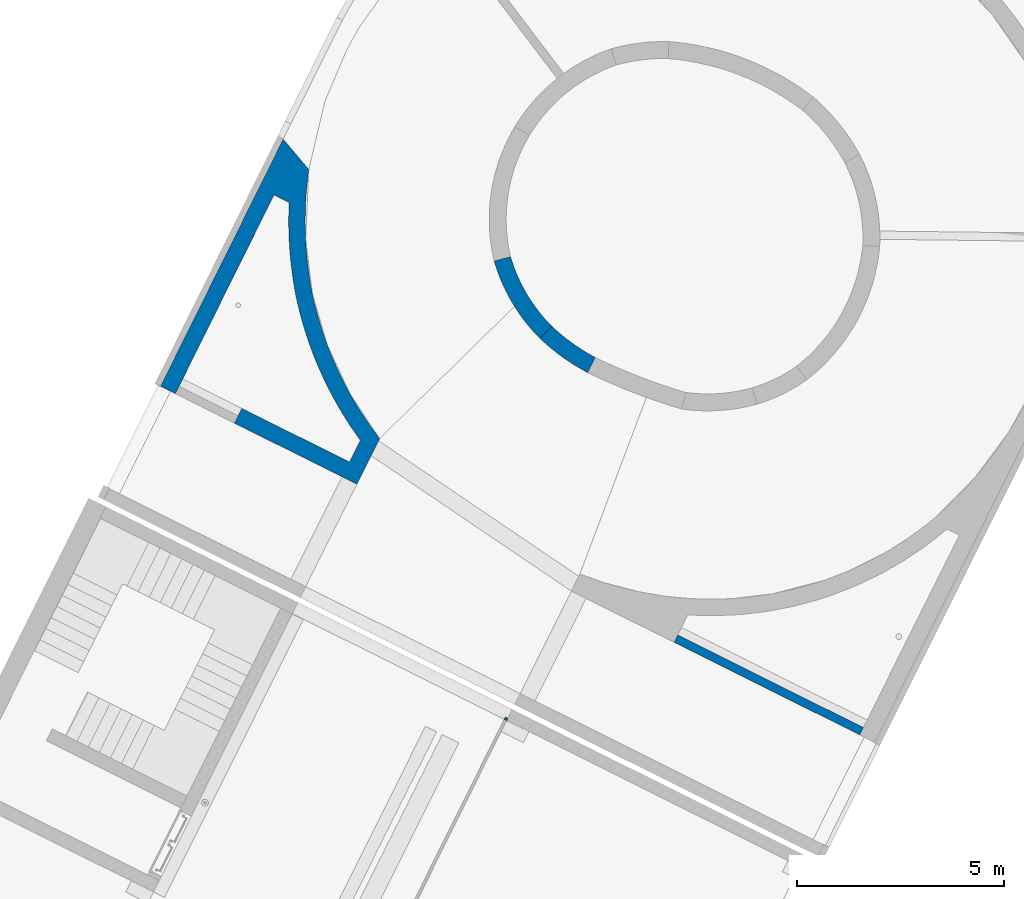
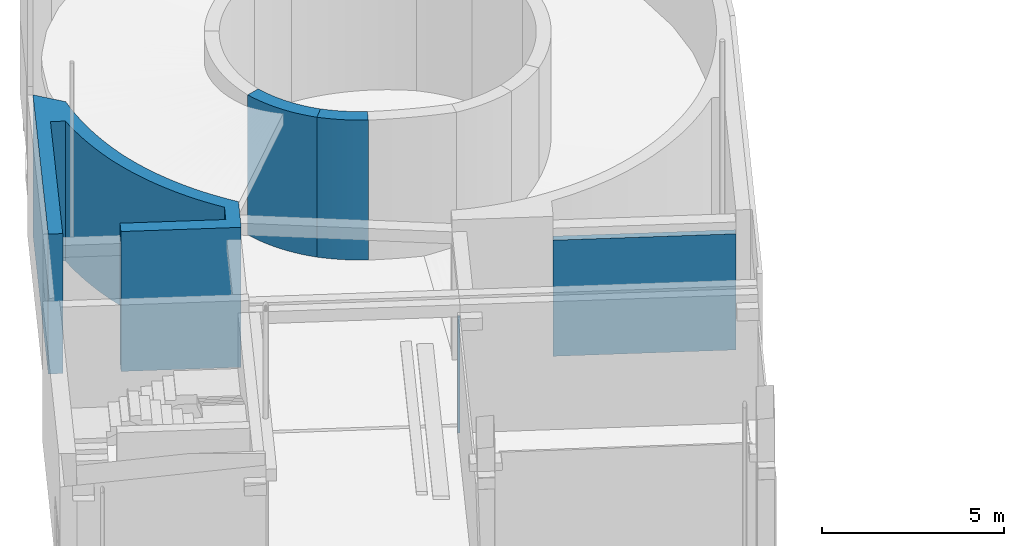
# One storey, part 18 of 91: 5 walls.
"""IFC2X3 building model written with IfcOpenShell, lengths in metres."""

from ifc_helpers import new_model, entity, si_unit, converted_unit, derived_unit, direction, frame, frame_2d, origin, place, context, subcontext, project, spatial, polyline, circle_curve, parameter, trimmed, segment, composite_curve, rectangle, outline, extrude, clip, bounded_halfspace, material, layer, layer_set, layer_usage, type_object, element, save


model = new_model("IFC2X3")

# Units and contexts
model_context = context("Model", 3, precision=1e-05, world=origin(), true_north=direction((0.894925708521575, 0.446215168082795)))
context_of_model = context(None, 3, precision=1e-05, world=origin(), true_north=direction((0.894925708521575, 0.446215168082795)))
body_context = subcontext(model_context, "Body", "Model", "MODEL_VIEW")
ifc_project = project(units=[si_unit("LENGTHUNIT", "METRE"), si_unit("AREAUNIT", "SQUARE_METRE"), si_unit("VOLUMEUNIT", "CUBIC_METRE"), converted_unit("PLANEANGLEUNIT", "DEGREE", entity("IfcRatioMeasure", 0.0174532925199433), si_unit("PLANEANGLEUNIT", "RADIAN"), dimensions=[0, 0, 0, 0, 0, 0, 0]), si_unit("MASSUNIT", "GRAM", prefix="KILO"), si_unit("TIMEUNIT", "SECOND"), si_unit("FREQUENCYUNIT", "HERTZ"), si_unit("THERMODYNAMICTEMPERATUREUNIT", "DEGREE_CELSIUS"), derived_unit("THERMALTRANSMITTANCEUNIT", [(si_unit("MASSUNIT", "GRAM", prefix="KILO"), 1), (si_unit("THERMODYNAMICTEMPERATUREUNIT", "KELVIN"), -1), (si_unit("TIMEUNIT", "SECOND"), -3)]), derived_unit("VOLUMETRICFLOWRATEUNIT", [(si_unit("LENGTHUNIT", "METRE"), 3), (si_unit("TIMEUNIT", "SECOND"), -1)]), si_unit("ELECTRICCURRENTUNIT", "AMPERE"), si_unit("ELECTRICVOLTAGEUNIT", "VOLT"), si_unit("POWERUNIT", "WATT"), si_unit("FORCEUNIT", "NEWTON", prefix="KILO"), si_unit("ILLUMINANCEUNIT", "LUX"), si_unit("LUMINOUSFLUXUNIT", "LUMEN"), si_unit("LUMINOUSINTENSITYUNIT", "CANDELA"), si_unit("PRESSUREUNIT", "PASCAL")], contexts=[model_context, context_of_model])

# Site, building, storey
site_placement = place(None, frame((218.228324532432, 584.720189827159, 0.0), z_axis=(0.0, 0.0, 1.0), x_axis=(0.446215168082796, 0.894925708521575, 0.0)))
site = spatial("IfcSite", under=ifc_project, at=site_placement, Name="Default", CompositionType="ELEMENT")
building_placement = place(site_placement, origin())
building = spatial("IfcBuilding", under=site, at=building_placement, CompositionType="ELEMENT")
storey_placement = place(building_placement, origin())
storey = spatial("IfcBuildingStorey", under=building, at=storey_placement, Name="0 - Piano Terra", CompositionType="ELEMENT", Elevation=0.0)

# Walls
ifc_material_1 = material(Name="Intonaco - Bianco")
ifc_layer_1 = layer(ifc_material_1, 0.01)
ifc_material_2 = material(Name="Default - Calcestruzzo")
ifc_layer_2 = layer(ifc_material_2, 0.4)
ifc_layer_set_1 = layer_set([ifc_layer_1, ifc_layer_2], Name="Muro di base:Setto CA intonacato int - 41 cm")
ifc_layer_usage_1 = layer_usage(ifc_layer_set_1, "AXIS2", "POSITIVE", -0.205)
wall_type_1 = type_object("IfcWallType", Name="Muro di base:Setto CA intonacato int - 41 cm", PredefinedType="STANDARD", material=ifc_layer_set_1)
wall_1_placement = place(storey_placement, frame((67.3641992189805, -1.66068029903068, 0.0), z_axis=(0.0, 0.0, 1.0), x_axis=(-0.727124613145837, 0.686505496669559, 0.0)))
element("IfcWallStandardCase", 1, at=wall_1_placement, inside=storey, type_object=wall_type_1, material=ifc_layer_usage_1, Name="Muro di base:Setto CA intonacato int - 41 cm", ObjectType="Muro di base:Setto CA intonacato int - 41 cm", context=body_context, shape_type="SweptSolid", body=[
    extrude(outline(composite_curve([segment(trimmed(circle_curve(frame_2d((-3.78593377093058, -1.75768012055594), x_axis=(1.0, 0.0)), 4.37905485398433), [parameter(356.075090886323)], [parameter(24.9038369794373)], True, "PARAMETER"), True, "CONTINUOUS"), segment(polyline([(0.18593824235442, 0.086324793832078), (-0.183564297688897, -0.0914476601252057)]), True, "CONTINUOUS"), segment(trimmed(circle_curve(frame_2d((-3.78593377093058, -1.75768012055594), x_axis=(1.0, 0.0)), 3.96905485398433), [parameter(356.222668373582)], [parameter(24.8223308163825)], True, "PARAMETER"), False, "CONTINUOUS"), segment(polyline([(0.174498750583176, -2.01915799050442), (0.582850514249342, -2.05742214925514)]), True, "CONTINUOUS")], self_intersect=False)), origin(), (0.0, 0.0, 1.0), 4.69),
])
ifc_layer_usage_2 = layer_usage(ifc_layer_set_1, "AXIS2", "POSITIVE", -0.205)
wall_2_placement = place(storey_placement, frame((67.1496078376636, -3.00064880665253, 0.0), z_axis=(0.0, 0.0, 1.0), x_axis=(-0.956988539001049, 0.29012572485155, 0.0)))
element("IfcWallStandardCase", 2, at=wall_2_placement, inside=storey, type_object=wall_type_1, material=ifc_layer_usage_2, Name="Muro di base:Setto CA intonacato int - 41 cm", ObjectType="Muro di base:Setto CA intonacato int - 41 cm", context=body_context, shape_type="SweptSolid", body=[
    extrude(outline(composite_curve([segment(trimmed(circle_curve(frame_2d((-4.88110562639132, -1.35026256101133), x_axis=(1.0, 0.0)), 5.26942505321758), [parameter(359.999999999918)], [parameter(15.4630661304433)], True, "PARAMETER"), True, "CONTINUOUS"), segment(polyline([(0.197579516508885, 0.0546565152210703), (-0.195611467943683, -0.0617920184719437)]), True, "CONTINUOUS"), segment(trimmed(circle_curve(frame_2d((-4.88110562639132, -1.35026256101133), x_axis=(1.0, 0.0)), 4.85942505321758), [parameter(0.0671506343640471)], [parameter(15.3757925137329)], True, "PARAMETER"), False, "CONTINUOUS"), segment(polyline([(-0.0216839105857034, -1.34456731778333), (0.388319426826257, -1.35026256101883)]), True, "CONTINUOUS")], self_intersect=False)), origin(), (0.0, 0.0, 1.0), 4.69),
])
ifc_material_3 = material(Name="Sabbia e Calcestruzzo")
ifc_layer_3 = layer(ifc_material_3, 0.2)
ifc_layer_set_2 = layer_set([ifc_layer_3], Name="Muro di base:Blocchetti - 20 cm")
ifc_layer_usage_3 = layer_usage(ifc_layer_set_2, "AXIS2", "NEGATIVE", 0.1)
wall_type_2 = type_object("IfcWallType", Name="Muro di base:Blocchetti - 20 cm", PredefinedType="STANDARD", material=ifc_layer_set_2)
wall_3_placement = place(storey_placement, frame((62.1359369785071, -7.78107899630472, 0.0), z_axis=(0.0, 0.0, 1.0), x_axis=(0.0, -1.0, 0.0)))
element("IfcWallStandardCase", 3, at=wall_3_placement, inside=storey, type_object=wall_type_2, material=ifc_layer_usage_3, Name="Muro di base:Blocchetti - 20 cm", ObjectType="Muro di base:Blocchetti - 20 cm", context=body_context, shape_type="SweptSolid", body=[
    extrude(rectangle(XDim=5.01999999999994, YDim=0.200000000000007, at=frame_2d((2.50999999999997, 1.31838984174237e-16), x_axis=(-1.0, 0.0))), origin(), (0.0, 0.0, 1.0), 3.89),
])
ifc_material_4 = material(Name="Alluminio")
ifc_layer_4 = layer(ifc_material_4, 0.01)
ifc_material_5 = material(Name="Plastica")
ifc_layer_5 = layer(ifc_material_5, 0.04)
ifc_layer_6 = layer(ifc_material_4, 0.01)
ifc_layer_set_3 = layer_set([ifc_layer_4, ifc_layer_5, ifc_layer_6], Name="Muro di base:Pannello coibentato - 6 cm")
ifc_layer_usage_4 = layer_usage(ifc_layer_set_3, "AXIS2", "NEGATIVE", 0.03)
wall_type_3 = type_object("IfcWallType", Name="Muro di base:Pannello coibentato - 6 cm", PredefinedType="STANDARD", material=ifc_layer_set_3)
wall_4_placement = place(storey_placement, frame((58.5659369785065, -5.00107899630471, 0.0), z_axis=(0.0, 0.0, 1.0), x_axis=(0.0, 1.0, 0.0)))
element("IfcWallStandardCase", 4, at=wall_4_placement, inside=storey, type_object=wall_type_3, material=ifc_layer_usage_4, Name="Muro di base:Pannello coibentato - 6 cm", ObjectType="Muro di base:Pannello coibentato - 6 cm", context=body_context, shape_type="Clipping", body=[
    clip(extrude(rectangle(XDim=0.0649999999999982, YDim=0.0600000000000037, at=frame_2d((0.0324999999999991, 0.0), x_axis=(-1.0, 0.0))), origin(), (0.0, 0.0, 1.0), 4.03), bounded_halfspace(frame((0.0, -0.0300000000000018, 3.89), z_axis=(0.0, 0.0, -1.0), x_axis=(0.0, 1.0, 0.0)), True, frame((0.0, -0.0300000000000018, 3.89), z_axis=(0.0, 0.0, -1.0), x_axis=(0.0, 1.0, 0.0)), polyline([(0.0, 0.0), (0.0600000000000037, 0.0), (0.0600000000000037, 0.0649999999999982), (0.0, 0.0649999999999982), (0.0, 0.0)]))),
])
ifc_material_6 = material(Name="Calcestruzzo, gettato in opera")
wall_type_4 = type_object("IfcWallType", Name="Muri 4:Muri 4", PredefinedType="NOTDEFINED", material=ifc_material_6)
wall_5_placement = place(storey_placement, frame((62.0359369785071, 0.798921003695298, 0.0)))
element("IfcWall", 5, at=wall_5_placement, inside=storey, type_object=wall_type_4, material=ifc_material_6, Name="Muri 4:Muri 4", ObjectType="Muri 4:Muri 4", context=body_context, shape_type="SweptSolid", body=[
    extrude(outline(composite_curve([segment(polyline([(-4.27022199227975, -2.22935726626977), (2.40809909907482, -2.22935726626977)]), True, "CONTINUOUS"), segment(polyline([(2.40809909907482, -2.22935726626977), (2.40882799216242, -1.82935726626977)]), True, "CONTINUOUS"), segment(polyline([(2.40882799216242, -1.82935726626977), (-2.96117200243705, -1.82935726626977)]), True, "CONTINUOUS"), segment(polyline([(-2.96117200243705, -1.82935726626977), (-2.96042646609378, -1.42022382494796)]), True, "CONTINUOUS"), segment(trimmed(circle_curve(frame_2d((-6.7471242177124, 7.22062415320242), x_axis=(-0.999998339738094, 0.00182222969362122)), 9.43415781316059), [parameter(113.76898615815)], [parameter(127.788562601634)], True, "PARAMETER"), True, "CONTINUOUS"), segment(trimmed(circle_curve(frame_2d((-6.63228046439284, 6.85963867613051), x_axis=(-0.999998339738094, 0.00182222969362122)), 9.07919934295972), [parameter(128.607632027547)], [parameter(152.699415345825)], True, "PARAMETER"), True, "CONTINUOUS"), segment(polyline([(1.42800841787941, 2.68069098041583), (2.01704372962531, 2.67961762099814)]), True, "CONTINUOUS"), segment(polyline([(2.01704372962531, 2.67961762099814), (2.01174422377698, -0.228631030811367)]), True, "CONTINUOUS"), segment(polyline([(2.01174422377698, -0.228631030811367), (2.41174355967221, -0.229359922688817)]), True, "CONTINUOUS"), segment(polyline([(2.41174355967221, -0.229359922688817), (2.41777195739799, 3.07888806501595)]), True, "CONTINUOUS"), segment(polyline([(2.41777195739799, 3.07888806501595), (1.18126281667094, 3.08114127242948)]), True, "CONTINUOUS"), segment(trimmed(circle_curve(frame_2d((-6.63228046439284, 6.85963867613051), x_axis=(-0.999998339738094, 0.00182222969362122)), 8.67919934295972), [parameter(128.626498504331)], [parameter(154.296780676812)], True, "PARAMETER"), False, "CONTINUOUS"), segment(trimmed(circle_curve(frame_2d((-6.7471242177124, 7.22062415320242), x_axis=(-0.999998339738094, 0.00182222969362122)), 9.03415781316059), [parameter(108.567906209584)], [parameter(127.770421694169)], True, "PARAMETER"), False, "CONTINUOUS"), segment(polyline([(-3.88600220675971, -1.34850580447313), (-4.27022199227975, -2.22935726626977)]), True, "CONTINUOUS")], self_intersect=False)), frame((2.4121575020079, 3.0832886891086, 0.0), z_axis=(0.0, 0.0, 1.0), x_axis=(-0.999998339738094, -0.00182222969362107, 0.0)), (0.0, 0.0, 1.0), 4.69),
])

save(model, "model.ifc")
